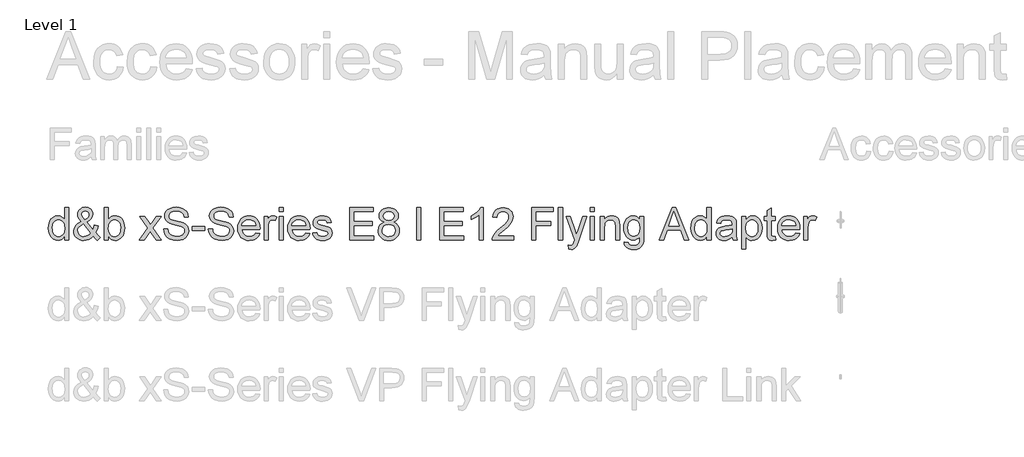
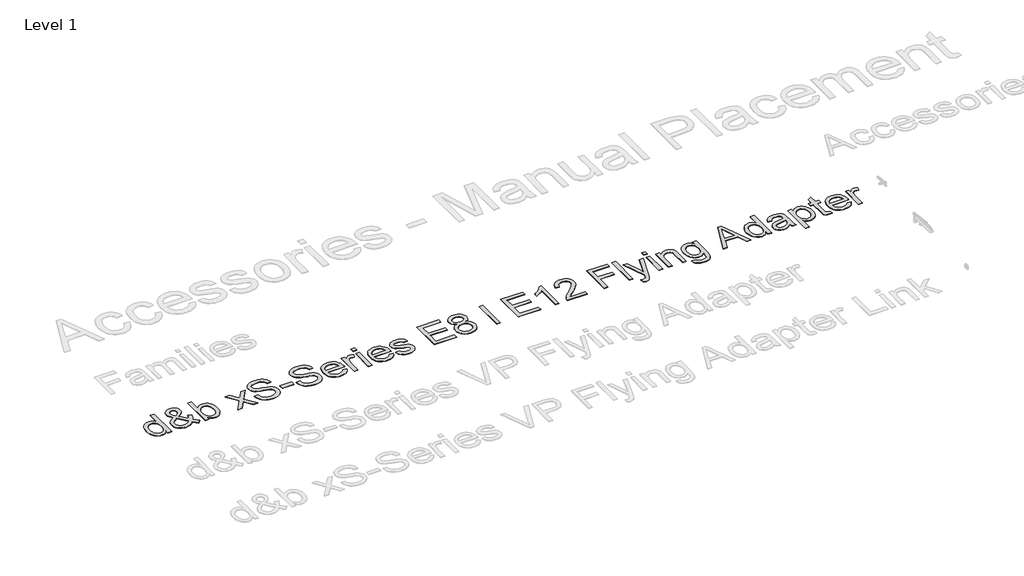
# One storey, part 12 of 55: 1 proxy.
"""IFC4 building model written with IfcOpenShell, lengths in millimetres."""

import ifcopenshell
import ifcopenshell.guid

model = None  # the IFC model being written
_history = None  # IfcOwnerHistory: only IFC2X3 demands one
_inside = {}  # id of a spatial element -> (the spatial element, [elements in it])
_under = {}  # id of a project, library or spatial element -> (it, [spatial elements below it])
_declared = {}  # id of a project -> (the project, [libraries it declares])
_typed = {}  # id of a type object -> (the type object, [elements of that type])
_made_of = {}  # id of a material, layer set ... -> (it, [elements and type objects made of it])


def new_model(schema):
    """Start an empty IFC model of exactly this schema.

    Asked for "IFC4X3", IfcOpenShell would pick the latest addendum, in which some entities
    have other attributes; the version numbers below select the first issue.
    IFC2X3 requires an IfcOwnerHistory on every rooted entity: one is made here for all.
    """
    global model, _history
    if schema == "IFC4X3":
        model = ifcopenshell.file(schema_version=(4, 3, 0, 0))
    else:
        model = ifcopenshell.file(schema=schema)
    _inside.clear()
    _under.clear()
    _declared.clear()
    _typed.clear()
    _made_of.clear()
    _history = None
    if model.schema == "IFC2X3":
        org = make("IfcOrganization", Name="unknown")
        user = make(
            "IfcPersonAndOrganization",
            ThePerson=make("IfcPerson", FamilyName="unknown"),
            TheOrganization=org,
        )
        app = make(
            "IfcApplication",
            ApplicationDeveloper=org,
            Version="unknown",
            ApplicationFullName="unknown",
            ApplicationIdentifier="unknown",
        )
        _history = make(
            "IfcOwnerHistory",
            OwningUser=user,
            OwningApplication=app,
            ChangeAction="ADDED",
            CreationDate=0,
        )
    return model


def make(cls, **values):
    """One entity of the class cls with the attributes given. An attribute that is None is left unset."""
    return model.create_entity(
        cls, **{name: value for name, value in values.items() if value is not None}
    )


def rooted(cls, **values):
    """An entity with a GlobalId (a new one), such as an element, a storey or a relation."""
    return make(cls, GlobalId=ifcopenshell.guid.new(), OwnerHistory=_history, **values)


def si_unit(unit_type, name, prefix=None):
    """IfcSIUnit, for example si_unit("LENGTHUNIT", "METRE", prefix="MILLI")."""
    return make("IfcSIUnit", UnitType=unit_type, Prefix=prefix, Name=name)


def assignment(units):
    """IfcUnitAssignment: the units of a project."""
    return None if units is None else make("IfcUnitAssignment", Units=units)


def point(xyz):
    """IfcCartesianPoint."""
    return None if xyz is None else make("IfcCartesianPoint", Coordinates=xyz)


def direction(xyz):
    """IfcDirection."""
    return None if xyz is None else make("IfcDirection", DirectionRatios=xyz)


def frame(location, z_axis=None, x_axis=None):
    """IfcAxis2Placement3D, a coordinate frame: its origin and axes. An axis left out is left unset."""
    return make(
        "IfcAxis2Placement3D",
        Location=point(location),
        Axis=direction(z_axis),
        RefDirection=direction(x_axis),
    )


def origin():
    """The frame at (0, 0, 0) with its axes left unset."""
    return frame((0.0, 0.0, 0.0))


def origin_with_axes():
    """The frame at (0, 0, 0) with the z axis (0, 0, 1) and the x axis (1, 0, 0) written out."""
    return frame((0.0, 0.0, 0.0), z_axis=(0.0, 0.0, 1.0), x_axis=(1.0, 0.0, 0.0))


def place(relative_to, where):
    """IfcLocalPlacement: puts the frame where relative to a parent placement (None: the world)."""
    return make(
        "IfcLocalPlacement", PlacementRelTo=relative_to, RelativePlacement=where
    )


def context(
    kind, dimensions, precision=None, world=None, true_north=None, identifier=None
):
    """IfcGeometricRepresentationContext, for example the 3D "Model" context."""
    return make(
        "IfcGeometricRepresentationContext",
        ContextIdentifier=identifier,
        ContextType=kind,
        CoordinateSpaceDimension=dimensions,
        Precision=precision,
        WorldCoordinateSystem=world,
        TrueNorth=true_north,
    )


def project(units=None, contexts=None):
    """IfcProject with its units and contexts."""
    return rooted(
        "IfcProject",
        Name="project",
        RepresentationContexts=contexts,
        UnitsInContext=assignment(units),
    )


def spatial(cls, under=None, at=None, **own):
    """A site, building, storey or space (cls), placed at a placement, below another one or the project."""
    s = rooted(cls, ObjectPlacement=at, **own)
    if under is not None:
        _under.setdefault(under.id(), (under, []))[1].append(s)
    return s


def polyline(points):
    """IfcPolyline through the points."""
    return make("IfcPolyline", Points=[point(p) for p in points])


def outline(outer, holes=None, kind="AREA"):
    """IfcArbitraryClosedProfileDef: a profile drawn as a closed curve; with holes, ...WithVoids."""
    if holes is None:
        return make("IfcArbitraryClosedProfileDef", ProfileType=kind, OuterCurve=outer)
    return make(
        "IfcArbitraryProfileDefWithVoids",
        ProfileType=kind,
        OuterCurve=outer,
        InnerCurves=holes,
    )


def extrude(swept, where, along, depth):
    """IfcExtrudedAreaSolid: the profile swept, set in the frame where, extruded along a direction by depth."""
    return make(
        "IfcExtrudedAreaSolid",
        SweptArea=swept,
        Position=where,
        ExtrudedDirection=direction(along),
        Depth=depth,
    )


def shape(context_of_items, identifier, shape_type, items):
    """IfcShapeRepresentation: the items that make up one representation, for example the "Body"."""
    return make(
        "IfcShapeRepresentation",
        ContextOfItems=context_of_items,
        RepresentationIdentifier=identifier,
        RepresentationType=shape_type,
        Items=items,
    )


def made_of(thing, what):
    """Note that an element or type object is made of a material, layer set ...; save() writes the relation."""
    if what is not None:
        _made_of.setdefault(what.id(), (what, []))[1].append(thing)
    return thing


def element(
    cls,
    number,
    at=None,
    inside=None,
    cuts=None,
    type_object=None,
    material=None,
    context=None,
    identifier="Body",
    shape_type=None,
    held_by="IfcProductDefinitionShape",
    body=None,
    shapes=None,
    **own,
):
    """One element of the class cls, such as IfcWall. Its Tag is "e" and its number.

    at: its placement. inside: the storey or other place that contains it. cuts: it is an
    opening in that element (IfcRelVoidsElement). A single representation is given by context,
    identifier, shape_type and body (its items); several are given by shapes. held_by: the class
    of the entity that holds the representations. save() writes the other relations.
    """
    e = rooted(cls, Tag="e%d" % number, ObjectPlacement=at, **own)
    if body is not None:
        shapes = [shape(context, identifier, shape_type, body)]
    if shapes is not None:
        e.Representation = make(held_by, Representations=shapes)
    if inside is not None:
        _inside.setdefault(inside.id(), (inside, []))[1].append(e)
    if cuts is not None:
        rooted(
            "IfcRelVoidsElement", RelatingBuildingElement=cuts, RelatedOpeningElement=e
        )
    if type_object is not None:
        _typed.setdefault(type_object.id(), (type_object, []))[1].append(e)
    return made_of(e, material)


def aggregate(whole, parts):
    """IfcRelAggregates: a whole, such as a stair, and the parts it consists of."""
    return rooted("IfcRelAggregates", RelatingObject=whole, RelatedObjects=parts)


def save(model, path):
    """Write the relations noted so far, then the file.

    IfcRelAggregates (storeys below a building ...), IfcRelContainedInSpatialStructure (elements
    in a storey), IfcRelDefinesByType, IfcRelAssociatesMaterial and IfcRelDeclares: one each for
    every whole, place, type object, material and project.
    """
    for whole, parts in _under.values():
        aggregate(whole, parts)
    for where, things in _inside.values():
        rooted(
            "IfcRelContainedInSpatialStructure",
            RelatedElements=things,
            RelatingStructure=where,
        )
    for kind, things in _typed.values():
        rooted("IfcRelDefinesByType", RelatedObjects=things, RelatingType=kind)
    for what, things in _made_of.values():
        rooted("IfcRelAssociatesMaterial", RelatedObjects=things, RelatingMaterial=what)
    for by, libraries in _declared.values():
        rooted("IfcRelDeclares", RelatingContext=by, RelatedDefinitions=libraries)
    model.write(path)


model = new_model("IFC4")

# Units and contexts
model_context = context("Model", 3, world=origin())
ifc_project = project(units=[si_unit("LENGTHUNIT", "METRE", prefix="MILLI")], contexts=[model_context])

# Site, building, storey
site = spatial("IfcSite", under=ifc_project)
building = spatial("IfcBuilding", under=site)
storey = spatial("IfcBuildingStorey", under=building, Name="Level 1", Elevation=0.0)

# Proxy
placement = place(None, origin())
element("IfcBuildingElementProxy", 1, Name="400mm Arial", ObjectType="400mm Arial", at=placement, inside=storey, context=model_context, shape_type="SweptSolid", body=[
    extrude(outline(polyline([(-20879.8211974, -27148.6945164), (-20879.8211974, -27101.3113154), (-20894.8491769, -27124.7883181), (-20913.0532043, -27141.5576057), (-20934.4332796, -27151.6191783), (-20958.9894028, -27154.9730358), (-20991.4611202, -27150.1169935), (-21021.1859854, -27135.5488665), (-21046.3491139, -27112.2864616), (-21065.1356211, -27081.3475858), (-21076.8342686, -27043.9830379), (-21080.7338177, -27001.4436165), (-21077.1408369, -26959.4314926), (-21066.3618945, -26921.4905962), (-21048.4092531, -26889.7791682), (-21023.2951755, -26866.4554497), (-20992.9203855, -26852.1080519), (-20959.1856065, -26847.325586), (-20934.6110892, -26850.7468885), (-20912.8815261, -26861.0107962), (-20894.4629008, -26876.7438829), (-20879.8211974, -26896.5727224), (-20879.8211974, -26746.8692758), (-20829.5930424, -26746.8692758), (-20829.5930424, -27148.6945164), (-20879.8211974, -27148.6945164)]), holes=[polyline([(-21030.5056627, -27001.2474128), (-21029.089317, -27025.6042665), (-21024.8402799, -27046.6808392), (-21017.7585515, -27064.4771307), (-21007.8441318, -27078.9931411), (-20983.1469871, -27098.3069458), (-20969.2717046, -27103.135397), (-20954.3786151, -27104.7448807), (-20939.415015, -27103.2089734), (-20925.6225058, -27098.6012514), (-20901.5507606, -27080.1703635), (-20892.0440767, -27066.2613584), (-20885.2535882, -27049.1088603), (-20879.8211974, -27005.0733855), (-20885.3516901, -26956.9298951), (-20892.2648059, -26938.3947739), (-20901.9431681, -26923.5507354), (-20913.6448812, -26912.1770504), (-20926.6280499, -26904.0529896), (-20940.8926743, -26899.1785532), (-20956.4387543, -26897.5537411), (-20971.6261493, -26899.1141738), (-20985.5014319, -26903.7954722), (-20998.064602, -26911.5976362), (-21009.3156597, -26922.5206658), (-21018.586286, -26936.8036843), (-21025.2081619, -26954.6858149), (-21030.5056627, -27001.2474128)])]), origin_with_axes(), (0.0, 0.0, 1.0), 5.0),
    extrude(outline(polyline([(-20523.809528, -27099.0549725), (-20549.3405384, -27123.5191252), (-20577.0788409, -27140.99352), (-20607.0734862, -27151.4781569), (-20639.3735254, -27154.9730358), (-20668.6814577, -27152.3855991), (-20694.8010793, -27144.623289), (-20717.7323904, -27131.6861055), (-20737.4753908, -27113.5740486), (-20750.308341, -27096.2038871), (-20759.4747341, -27077.8404442), (-20764.9745699, -27058.4837198), (-20766.8078485, -27038.1337141), (-20760.9094739, -27002.9396699), (-20743.2143499, -26971.3263438), (-20713.796053, -26943.3182613), (-20672.7281596, -26918.9399477), (-20694.6416638, -26890.5885086), (-20707.7995765, -26868.1231814), (-20714.3846642, -26848.9442668), (-20716.5796934, -26830.4520651), (-20714.8506481, -26812.8979626), (-20709.6635119, -26796.5333452), (-20701.018285, -26781.3582129), (-20688.9149674, -26767.3725657), (-20674.1935562, -26755.6555241), (-20657.6940487, -26747.2862088), (-20639.4164449, -26742.2646195), (-20619.3607448, -26740.5907564), (-20600.212487, -26742.1910431), (-20582.8913764, -26746.9919032), (-20567.397413, -26754.9933366), (-20553.7305969, -26766.1953433), (-20542.5715097, -26779.6414302), (-20534.6007332, -26794.3751041), (-20529.8182672, -26810.396365), (-20528.2241119, -26827.7052129), (-20532.9452642, -26855.68877), (-20547.108721, -26881.563137), (-20570.7144823, -26905.3283139), (-20603.7625482, -26926.9843007), (-20531.069066, -27017.5323224), (-20518.6837055, -26991.6579554), (-20509.3885538, -26961.9085647), (-20459.1603987, -26972.7978718), (-20474.6114425, -27019.3226815), (-20494.6732739, -27055.4977443), (-20466.1256311, -27088.8033276), (-20434.0463211, -27116.3209009), (-20471.7174374, -27154.9730358), (-20497.3465498, -27131.52669), (-20523.809528, -27099.0549725)]), holes=[polyline([(-20557.4584678, -27062.8553842), (-20647.1235727, -26950.9211558), (-20681.3733865, -26972.7733463), (-20702.305872, -26993.0068561), (-20713.0112381, -27012.3329235), (-20716.5796934, -27031.4627873), (-20711.6991256, -27055.1543878), (-20697.0574222, -27079.7289051), (-20686.2784798, -27090.6733944), (-20673.4639236, -27098.4908868), (-20658.6137537, -27103.1813823), (-20641.7279702, -27104.7448807), (-20619.0051256, -27101.8263502), (-20595.5710425, -27093.0707588), (-20574.1480476, -27079.6798541), (-20557.4584678, -27062.8553842)]), polyline([(-20629.1709314, -26895.2973981), (-20602.9041569, -26878.6323438), (-20587.8700461, -26864.1500559), (-20580.8067117, -26850.0601755), (-20578.452267, -26834.5723435), (-20581.5547385, -26817.0243723), (-20590.862153, -26803.0325938), (-20604.829406, -26793.8723321), (-20621.9113933, -26790.8189115), (-20639.3612626, -26793.8478066), (-20653.6473468, -26802.9344919), (-20663.1754905, -26816.3867102), (-20666.3515384, -26832.5122043), (-20662.0350563, -26850.9063041), (-20648.9875082, -26871.360543), (-20629.1709314, -26895.2973981)])]), origin_with_axes(), (0.0, 0.0, 1.0), 5.0),
    extrude(outline(polyline([(-20333.590011, -27148.6945164), (-20383.8181661, -27148.6945164), (-20383.8181661, -26746.8692758), (-20333.590011, -26746.8692758), (-20333.590011, -26895.8860093), (-20317.0721094, -26874.6408241), (-20298.4204923, -26859.4656918), (-20277.6351595, -26850.3606124), (-20254.7161112, -26847.325586), (-20228.8417442, -26850.0601755), (-20204.3898543, -26858.263944), (-20182.758393, -26871.4218567), (-20165.3453119, -26889.0188788), (-20151.6968898, -26910.883332), (-20141.3594058, -26936.8435381), (-20134.8478945, -26965.8203766), (-20132.6773907, -26996.734727), (-20134.9245365, -27032.4070178), (-20141.6659741, -27063.7873519), (-20152.9017034, -27090.8757295), (-20168.6317244, -27113.6721505), (-20187.5132678, -27131.7412878), (-20208.2035643, -27144.6478145), (-20230.702614, -27152.3917305), (-20255.0104168, -27154.9730358), (-20278.6836232, -27151.6437038), (-20299.671291, -27141.6557076), (-20317.9734203, -27125.0090473), (-20333.590011, -27101.7037229), (-20333.590011, -27148.6945164)]), holes=[polyline([(-20333.590011, -26999.0891717), (-20330.1564457, -27040.9786682), (-20319.8557498, -27069.3301073), (-20307.6849872, -27084.8240707), (-20293.5399244, -27095.8911874), (-20277.4205617, -27102.5314574), (-20259.3268989, -27104.7448807), (-20244.3050508, -27103.1139372), (-20230.3377977, -27098.2211067), (-20217.4251396, -27090.0663891), (-20205.5670767, -27078.6497845), (-20195.6526569, -27064.0019498), (-20188.5709285, -27046.1535416), (-20184.3218914, -27025.1045601), (-20182.9055458, -27000.8550053), (-20188.3379366, -26954.8942814), (-20195.1284251, -26937.1010555), (-20204.6351089, -26922.7659205), (-20216.0670419, -26911.735592), (-20228.6332778, -26903.8567859), (-20242.3338164, -26899.1295023), (-20257.1686579, -26897.5537411), (-20272.190506, -26899.1846846), (-20286.1577591, -26904.0775151), (-20299.0704171, -26912.2322327), (-20310.9284801, -26923.6488372), (-20320.8428999, -26938.1495192), (-20327.9246283, -26955.556469), (-20332.1736653, -26975.8696865), (-20333.590011, -26999.0891717)])]), origin_with_axes(), (0.0, 0.0, 1.0), 5.0),
    extrude(outline(polyline([(-19950.6003285, -27148.6945164), (-19843.2768878, -27000.2663941), (-19944.3218092, -26853.6041054), (-19884.0872638, -26853.6041054), (-19835.3306367, -26924.3355503), (-19812.4729021, -26957.5920827), (-19792.6563253, -26930.3197641), (-19737.1306695, -26853.6041054), (-19676.6999204, -26853.6041054), (-19782.8461387, -27000.364496), (-19680.623995, -27148.6945164), (-19740.9566422, -27148.6945164), (-19802.5646137, -27059.4218189), (-19813.7482263, -27043.0388074), (-19890.1695795, -27148.6945164), (-19950.6003285, -27148.6945164)])), origin_with_axes(), (0.0, 0.0, 1.0), 5.0),
    extrude(outline(polyline([(-19649.2313981, -27010.56709), (-19599.003243, -27010.56709), (-19593.2397584, -27038.4402825), (-19582.8164352, -27060.844296), (-19566.556051, -27078.6252591), (-19543.2813835, -27092.6293004), (-19514.8318425, -27101.7159856), (-19483.0468381, -27104.7448807), (-19455.063281, -27102.4517496), (-19430.5623402, -27095.5723563), (-19410.7089752, -27084.6830493), (-19396.6681457, -27070.3601769), (-19388.3172244, -27053.9158517), (-19385.533584, -27036.6621862), (-19387.6182486, -27019.849979), (-19393.8722425, -27005.3186402), (-19406.5764341, -26992.9210169), (-19428.0116917, -26982.5099565), (-19501.1466323, -26963.3310418), (-19549.1552327, -26950.639113), (-19579.8733793, -26938.5603208), (-19604.8770922, -26921.6622745), (-19622.5967416, -26901.1835101), (-19633.1549549, -26877.565486), (-19636.6743593, -26851.2496606), (-19632.3210891, -26821.8313637), (-19619.2612782, -26794.3996296), (-19597.8382834, -26771.1494875), (-19568.395461, -26754.2759667), (-19533.054264, -26744.012059), (-19493.9361452, -26740.5907564), (-19451.5561394, -26744.1714745), (-19414.4736342, -26754.9136288), (-19384.013005, -26772.59649), (-19361.4986269, -26796.999329), (-19347.249331, -26826.6015669), (-19341.5839483, -26859.8826247), (-19391.8121033, -26859.8826247), (-19401.0336787, -26829.9125049), (-19409.3968627, -26818.0544419), (-19420.2616443, -26808.2810436), (-19450.3053406, -26795.1844445), (-19491.9741079, -26790.8189115), (-19534.6238939, -26795.1353936), (-19550.9271976, -26800.5309962), (-19563.8827752, -26808.0848398), (-19580.805347, -26827.1411272), (-19586.4462043, -26849.7781326), (-19582.4485532, -26869.0796746), (-19570.4556002, -26884.6042948), (-19542.1041611, -26898.4857088), (-19488.4424407, -26912.6614283), (-19433.0639377, -26926.1259093), (-19399.5621507, -26937.8736077), (-19370.9286687, -26956.0960292), (-19350.9526764, -26978.5858819), (-19339.2172408, -27005.097911), (-19335.3054289, -27035.3868619), (-19339.805852, -27066.3502632), (-19353.3071212, -27095.4742545), (-19375.2574136, -27120.5392811), (-19405.1049061, -27139.3257883), (-19440.9979261, -27151.0612239), (-19481.0848008, -27154.9730358), (-19530.2951491, -27150.7546556), (-19570.7989567, -27138.099515), (-19603.0622077, -27116.958563), (-19627.5508858, -27087.2827487), (-19643.2717098, -27051.1322113), (-19649.2313981, -27010.56709)])), origin_with_axes(), (0.0, 0.0, 1.0), 5.0),
    extrude(outline(polyline([(-19291.3557932, -27029.4026481), (-19291.3557932, -26979.174493), (-19134.3928086, -26979.174493), (-19134.3928086, -27029.4026481), (-19291.3557932, -27029.4026481)])), origin_with_axes(), (0.0, 0.0, 1.0), 5.0),
    extrude(outline(polyline([(-19090.4431729, -27010.56709), (-19040.2150178, -27010.56709), (-19034.4515332, -27038.4402825), (-19024.02821, -27060.844296), (-19007.7678258, -27078.6252591), (-18984.4931583, -27092.6293004), (-18956.0436173, -27101.7159856), (-18924.2586129, -27104.7448807), (-18896.2750558, -27102.4517496), (-18871.774115, -27095.5723563), (-18851.9207499, -27084.6830493), (-18837.8799205, -27070.3601769), (-18829.5289992, -27053.9158517), (-18826.7453587, -27036.6621862), (-18828.8300234, -27019.849979), (-18835.0840173, -27005.3186402), (-18847.7882089, -26992.9210169), (-18869.2234665, -26982.5099565), (-18942.3584071, -26963.3310418), (-18990.3670075, -26950.639113), (-19021.0851541, -26938.5603208), (-19046.088867, -26921.6622745), (-19063.8085164, -26901.1835101), (-19074.3667297, -26877.565486), (-19077.8861341, -26851.2496606), (-19073.5328638, -26821.8313637), (-19060.473053, -26794.3996296), (-19039.0500582, -26771.1494875), (-19009.6072358, -26754.2759667), (-18974.2660388, -26744.012059), (-18935.14792, -26740.5907564), (-18892.7679141, -26744.1714745), (-18855.685409, -26754.9136288), (-18825.2247798, -26772.59649), (-18802.7104017, -26796.999329), (-18788.4611058, -26826.6015669), (-18782.7957231, -26859.8826247), (-18833.0238781, -26859.8826247), (-18842.2454535, -26829.9125049), (-18850.6086375, -26818.0544419), (-18861.4734191, -26808.2810436), (-18891.5171154, -26795.1844445), (-18933.1858827, -26790.8189115), (-18975.8356687, -26795.1353936), (-18992.1389724, -26800.5309962), (-19005.09455, -26808.0848398), (-19022.0171218, -26827.1411272), (-19027.657979, -26849.7781326), (-19023.660328, -26869.0796746), (-19011.667375, -26884.6042948), (-18983.3159359, -26898.4857088), (-18929.6542155, -26912.6614283), (-18874.2757125, -26926.1259093), (-18840.7739255, -26937.8736077), (-18812.1404435, -26956.0960292), (-18792.1644512, -26978.5858819), (-18780.4290156, -27005.097911), (-18776.5172037, -27035.3868619), (-18781.0176267, -27066.3502632), (-18794.518896, -27095.4742545), (-18816.4691883, -27120.5392811), (-18846.3166809, -27139.3257883), (-18882.2097009, -27151.0612239), (-18922.2965756, -27154.9730358), (-18971.5069238, -27150.7546556), (-19012.0107315, -27138.099515), (-19044.2739825, -27116.958563), (-19068.7626606, -27087.2827487), (-19084.4834846, -27051.1322113), (-19090.4431729, -27010.56709)])), origin_with_axes(), (0.0, 0.0, 1.0), 5.0),
    extrude(outline(polyline([(-18500.850962, -27060.795245), (-18451.6038255, -27067.0737644), (-18459.1546035, -27086.7983707), (-18469.3480004, -27104.180795), (-18482.1840164, -27119.2210372), (-18497.6626513, -27131.9190974), (-18515.6244897, -27142.0051955), (-18535.9101161, -27149.2095512), (-18583.4527326, -27154.9730358), (-18614.618469, -27152.4867667), (-18642.3874282, -27145.0279592), (-18666.7596104, -27132.5966135), (-18687.7350155, -27115.1927294), (-18704.602405, -27093.300685), (-18716.6505403, -27067.4048582), (-18723.8794215, -27037.5052491), (-18726.2890486, -27003.6018575), (-18723.8548961, -26968.5488348), (-18716.5524385, -26937.6528785), (-18704.3816758, -26910.9139888), (-18687.342608, -26888.3321657), (-18666.4223852, -26870.3917871), (-18642.6081574, -26857.5772309), (-18615.8999246, -26849.8884972), (-18586.2976867, -26847.325586), (-18557.6488763, -26849.8823658), (-18531.7407868, -26857.5527054), (-18508.5734182, -26870.3366048), (-18488.1467704, -26888.2340638), (-18471.472519, -26910.766836), (-18459.5623394, -26937.4566748), (-18452.4162316, -26968.3035801), (-18450.0341957, -27003.3075519), (-18450.3285013, -27016.8456094), (-18676.0608935, -27016.8456094), (-18673.1515601, -27036.8890467), (-18667.3666157, -27054.4431493), (-18658.7060604, -27069.507917), (-18647.1698942, -27082.0833498), (-18633.3957791, -27091.9977696), (-18618.0213774, -27099.079498), (-18582.4717139, -27104.7448807), (-18555.7389556, -27102.1206558), (-18533.2245775, -27094.2479811), (-18514.9285796, -27080.6363473), (-18500.850962, -27060.795245)]), holes=[polyline([(-18676.0608935, -26966.6174543), (-18500.2623508, -26966.6174543), (-18507.0559049, -26940.0808997), (-18520.3732332, -26921.0981887), (-18534.0707061, -26910.7974929), (-18549.65664, -26903.439853), (-18567.1310348, -26899.025269), (-18586.4938904, -26897.5537411), (-18620.3512967, -26902.2503679), (-18648.3471166, -26916.3402483), (-18667.8080741, -26938.3028034), (-18676.0608935, -26966.6174543)])]), origin_with_axes(), (0.0, 0.0, 1.0), 5.0),
    extrude(outline(polyline([(-18399.8060406, -27148.6945164), (-18399.8060406, -26853.6041054), (-18355.8564049, -26853.6041054), (-18355.8564049, -26897.2594355), (-18339.6205462, -26871.9491542), (-18324.6600117, -26857.0376707), (-18309.6504263, -26849.7536071), (-18293.2674148, -26847.325586), (-18268.2514391, -26851.2006097), (-18242.843056, -26862.8256807), (-18259.618475, -26907.8544369), (-18277.2768108, -26900.128915), (-18294.9351465, -26897.5537411), (-18309.9324692, -26900.0308132), (-18323.3356365, -26907.4620295), (-18334.1636299, -26919.2833042), (-18341.4354307, -26934.9305518), (-18347.5422718, -26962.9876853), (-18349.5778855, -26993.5954673), (-18349.5778855, -27148.6945164), (-18399.8060406, -27148.6945164)])), origin_with_axes(), (0.0, 0.0, 1.0), 5.0),
    extrude(outline(polyline([(-18211.4504591, -26797.0974309), (-18211.4504591, -26746.8692758), (-18161.222304, -26746.8692758), (-18161.222304, -26797.0974309), (-18211.4504591, -26797.0974309)])), origin_with_axes(), (0.0, 0.0, 1.0), 5.0),
    extrude(outline(polyline([(-18211.4504591, -27148.6945164), (-18211.4504591, -26853.6041054), (-18161.222304, -26853.6041054), (-18161.222304, -27148.6945164), (-18211.4504591, -27148.6945164)])), origin_with_axes(), (0.0, 0.0, 1.0), 5.0),
    extrude(outline(polyline([(-17879.2775429, -27060.795245), (-17830.0304065, -27067.0737644), (-17837.5811844, -27086.7983707), (-17847.7745814, -27104.180795), (-17860.6105973, -27119.2210372), (-17876.0892323, -27131.9190974), (-17894.0510707, -27142.0051955), (-17914.336697, -27149.2095512), (-17961.8793136, -27154.9730358), (-17993.0450499, -27152.4867667), (-18020.8140092, -27145.0279592), (-18045.1861914, -27132.5966135), (-18066.1615965, -27115.1927294), (-18083.0289859, -27093.300685), (-18095.0771213, -27067.4048582), (-18102.3060025, -27037.5052491), (-18104.7156295, -27003.6018575), (-18102.281477, -26968.5488348), (-18094.9790194, -26937.6528785), (-18082.8082567, -26910.9139888), (-18065.769189, -26888.3321657), (-18044.8489662, -26870.3917871), (-18021.0347384, -26857.5772309), (-17994.3265055, -26849.8884972), (-17964.7242676, -26847.325586), (-17936.0754573, -26849.8823658), (-17910.1673678, -26857.5527054), (-17886.9999991, -26870.3366048), (-17866.5733513, -26888.2340638), (-17849.8990999, -26910.766836), (-17837.9889203, -26937.4566748), (-17830.8428126, -26968.3035801), (-17828.4607766, -27003.3075519), (-17828.7550822, -27016.8456094), (-18054.4874745, -27016.8456094), (-18051.578141, -27036.8890467), (-18045.7931967, -27054.4431493), (-18037.1326413, -27069.507917), (-18025.5964751, -27082.0833498), (-18011.8223601, -27091.9977696), (-17996.4479584, -27099.079498), (-17960.8982949, -27104.7448807), (-17934.1655366, -27102.1206558), (-17911.6511585, -27094.2479811), (-17893.3551606, -27080.6363473), (-17879.2775429, -27060.795245)]), holes=[polyline([(-18054.4874745, -26966.6174543), (-17878.6889317, -26966.6174543), (-17885.4824859, -26940.0808997), (-17898.7998141, -26921.0981887), (-17912.4972871, -26910.7974929), (-17928.0832209, -26903.439853), (-17945.5576157, -26899.025269), (-17964.9204714, -26897.5537411), (-17998.7778777, -26902.2503679), (-18026.7736975, -26916.3402483), (-18046.234655, -26938.3028034), (-18054.4874745, -26966.6174543)])]), origin_with_axes(), (0.0, 0.0, 1.0), 5.0),
    extrude(outline(polyline([(-17797.0681797, -27060.795245), (-17746.8400246, -27054.5167257), (-17738.918299, -27076.0010342), (-17723.5898825, -27091.7954345), (-17700.7566734, -27101.5075192), (-17670.3205696, -27104.7448807), (-17640.2523479, -27101.7772993), (-17619.1113959, -27092.874555), (-17606.6034081, -27079.9741597), (-17602.4340788, -27065.0136253), (-17606.6279335, -27052.2113318), (-17619.2094978, -27042.4501962), (-17670.9091808, -27028.1273239), (-17746.545719, -27003.5528066), (-17765.6878455, -26991.2042343), (-17779.5569967, -26974.858011), (-17787.9814944, -26955.556469), (-17790.7896603, -26934.3419406), (-17788.5333174, -26914.880983), (-17781.7642887, -26896.9160789), (-17771.0957109, -26881.1584668), (-17757.1407205, -26868.3193852), (-17725.2085633, -26853.4569526), (-17704.3251287, -26848.8584276), (-17681.9946916, -26847.325586), (-17649.302245, -26849.7903953), (-17620.8772295, -26857.1848234), (-17598.0194949, -26868.785369), (-17582.0288908, -26883.8685308), (-17571.4338893, -26903.5502176), (-17564.7629625, -26928.946338), (-17614.9911176, -26935.2248574), (-17621.3309506, -26919.4181943), (-17633.8757267, -26907.5110804), (-17652.748073, -26900.0430759), (-17678.070617, -26897.5537411), (-17706.9125654, -26899.9327113), (-17726.140531, -26907.069622), (-17736.9562617, -26917.3703179), (-17740.5615053, -26929.2406436), (-17734.5772915, -26943.8578215), (-17715.8398352, -26954.9433323), (-17672.5769125, -26965.6364356), (-17598.8533607, -26989.2789852), (-17579.3801404, -27000.5852252), (-17564.6158097, -27016.0607944), (-17555.3083952, -27035.7547439), (-17552.2059237, -27059.7161245), (-17555.8479555, -27084.4868455), (-17566.7740507, -27107.7860386), (-17584.5672766, -27127.7865564), (-17608.8107, -27142.6612517), (-17638.0941069, -27151.8950898), (-17671.0072827, -27154.9730358), (-17698.040478, -27153.4892451), (-17721.6523707, -27149.037873), (-17741.8429609, -27141.6189194), (-17758.6122485, -27131.2323844), (-17772.3097214, -27117.9273189), (-17783.2848676, -27101.7527738), (-17791.5376871, -27082.7087492), (-17797.0681797, -27060.795245)])), origin_with_axes(), (0.0, 0.0, 1.0), 5.0),
    extrude(outline(polyline([(-17332.4577453, -27148.6945164), (-17332.4577453, -26746.8692758), (-17043.6458536, -26746.8692758), (-17043.6458536, -26797.0974309), (-17282.2295902, -26797.0974309), (-17282.2295902, -26916.3892992), (-17056.2028924, -26916.3892992), (-17056.2028924, -26966.6174543), (-17282.2295902, -26966.6174543), (-17282.2295902, -27098.4663614), (-17037.3673342, -27098.4663614), (-17037.3673342, -27148.6945164), (-17332.4577453, -27148.6945164)])), origin_with_axes(), (0.0, 0.0, 1.0), 5.0),
    extrude(outline(polyline([(-16907.6766682, -26927.3767081), (-16934.568842, -26914.1329563), (-16953.4411884, -26896.1803149), (-16964.5880128, -26873.886666), (-16968.303621, -26847.6198916), (-16966.28027, -26827.1349958), (-16960.2102171, -26808.35462), (-16950.0934622, -26791.278764), (-16935.9300054, -26775.907428), (-16918.4004283, -26763.2032364), (-16898.1853127, -26754.1288139), (-16875.2846585, -26748.6841603), (-16849.6984657, -26746.8692758), (-16823.9896456, -26748.7270799), (-16800.9173132, -26754.3004921), (-16780.4814683, -26763.5895125), (-16762.6821111, -26776.594141), (-16748.2611369, -26792.265914), (-16737.9604411, -26809.5563678), (-16731.7800235, -26828.4655024), (-16729.7198844, -26848.9933177), (-16733.3864416, -26874.4139636), (-16744.3861132, -26896.3274677), (-16762.8415267, -26914.1697445), (-16788.8753092, -26927.3767081), (-16757.9609589, -26943.3059985), (-16735.4588435, -26966.7646071), (-16721.7368451, -26996.6243624), (-16717.1628456, -27031.7570929), (-16719.4314512, -27056.8098568), (-16726.2372682, -27079.777956), (-16737.5802963, -27100.6613906), (-16753.4605358, -27119.4601605), (-16773.0441207, -27134.9970435), (-16795.4971851, -27146.094817), (-16820.8197291, -27152.7534811), (-16849.0117527, -27154.9730358), (-16877.2037762, -27152.7442841), (-16902.5263202, -27146.0580288), (-16924.9793847, -27134.91427), (-16944.5629696, -27119.3130077), (-16960.443209, -27100.3824134), (-16971.7862372, -27079.2506585), (-16978.5920541, -27055.9177429), (-16980.8606597, -27030.3836668), (-16976.1027193, -26993.8897729), (-16961.8288979, -26963.8706021), (-16938.7749595, -26941.3562239), (-16907.6766682, -26927.3767081)]), holes=[polyline([(-16930.6325047, -27028.6178332), (-16928.5355773, -27047.8335361), (-16922.2447952, -27066.4361023), (-16910.6319869, -27082.6596983), (-16892.5689809, -27094.7384905), (-16870.9375196, -27102.2432832), (-16848.6193452, -27104.7448807), (-16814.4308451, -27099.4841682), (-16800.5371684, -27092.9082775), (-16788.7772073, -27083.7020306), (-16772.7375523, -27059.8019637), (-16767.3910007, -27030.187463), (-16772.9092306, -27000.0701904), (-16789.4639204, -26975.6428259), (-16801.5427126, -26966.2005214), (-16815.7061694, -26959.4560181), (-16850.2870769, -26954.0604155), (-16883.9973304, -26959.3824417), (-16897.7346573, -26966.0349745), (-16909.3934508, -26975.3485203), (-16925.3227412, -26999.3099009), (-16930.6325047, -27028.6178332)]), polyline([(-16918.0754659, -26849.0914196), (-16913.6240938, -26871.0171865), (-16900.2699773, -26888.5283694), (-16878.4055241, -26900.0062877), (-16848.4231415, -26903.8322604), (-16819.1397347, -26900.0308132), (-16797.6063752, -26888.6264713), (-16784.3626234, -26871.7038995), (-16779.9480394, -26851.3477625), (-16784.5097762, -26830.2190732), (-16798.1949864, -26812.7446784), (-16820.0226515, -26801.0092428), (-16849.0117527, -26797.0974309), (-16878.1847949, -26800.9234037), (-16899.9756717, -26812.4013219), (-16913.5505174, -26829.2257918), (-16918.0754659, -26849.0914196)])]), origin_with_axes(), (0.0, 0.0, 1.0), 5.0),
    extrude(outline(polyline([(-16503.6931865, -27148.6945164), (-16503.6931865, -26746.8692758), (-16453.4650315, -26746.8692758), (-16453.4650315, -27148.6945164), (-16503.6931865, -27148.6945164)])), origin_with_axes(), (0.0, 0.0, 1.0), 5.0),
    extrude(outline(polyline([(-16214.8812949, -27148.6945164), (-16214.8812949, -26746.8692758), (-15926.0694032, -26746.8692758), (-15926.0694032, -26797.0974309), (-16164.6531398, -26797.0974309), (-16164.6531398, -26916.3892992), (-15938.6264419, -26916.3892992), (-15938.6264419, -26966.6174543), (-16164.6531398, -26966.6174543), (-16164.6531398, -27098.4663614), (-15919.7908838, -27098.4663614), (-15919.7908838, -27148.6945164), (-16214.8812949, -27148.6945164)])), origin_with_axes(), (0.0, 0.0, 1.0), 5.0),
    extrude(outline(polyline([(-15674.9286278, -27148.6945164), (-15725.1567829, -27148.6945164), (-15725.1567829, -26835.5533621), (-15746.1260566, -26852.5127221), (-15772.7361876, -26869.4475566), (-15825.613093, -26894.8068888), (-15825.613093, -26847.325586), (-15786.1638804, -26825.8658029), (-15751.9876431, -26800.3347925), (-15725.0464183, -26773.1851012), (-15707.3022434, -26746.8692758), (-15674.9286278, -26746.8692758), (-15674.9286278, -27148.6945164)])), origin_with_axes(), (0.0, 0.0, 1.0), 5.0),
    extrude(outline(polyline([(-15298.2174647, -27098.4663614), (-15298.2174647, -27148.6945164), (-15561.9152789, -27148.6945164), (-15560.8116329, -27131.0116552), (-15556.5196763, -27114.0645579), (-15544.1220531, -27087.0007058), (-15525.9609452, -27060.7461941), (-15499.7064335, -27033.2654091), (-15463.0285986, -27002.522737), (-15408.8395807, -26954.3792466), (-15376.3556005, -26918.8418458), (-15360.1320045, -26889.9998974), (-15354.7241392, -26861.9427639), (-15359.8376989, -26836.7918982), (-15375.1783781, -26815.8839381), (-15398.759614, -26801.7940577), (-15428.5948438, -26797.0974309), (-15459.9261271, -26801.6836931), (-15484.2676524, -26815.4424797), (-15499.9762136, -26837.2946702), (-15505.4086044, -26866.1611441), (-15555.6367595, -26859.8826247), (-15551.3172117, -26833.9530755), (-15543.4598655, -26811.2976759), (-15532.0647207, -26791.9164261), (-15517.1317773, -26775.8093261), (-15499.004392, -26763.1480541), (-15478.0259213, -26754.1042884), (-15454.196365, -26748.678029), (-15427.5157233, -26746.8692758), (-15400.5959583, -26748.8803641), (-15376.6376434, -26754.9136288), (-15355.6407785, -26764.96907), (-15337.6053637, -26779.0466877), (-15323.1200101, -26796.1041495), (-15312.773329, -26815.0991232), (-15306.5653203, -26836.0316087), (-15304.4959841, -26858.9016061), (-15306.7278016, -26882.9243004), (-15313.4232539, -26906.5300617), (-15325.3058423, -26930.5404933), (-15343.0990682, -26955.7771982), (-15371.46277, -26985.9067336), (-15415.0567864, -27024.5956567), (-15472.8387851, -27072.9108254), (-15495.500316, -27098.4663614), (-15298.2174647, -27098.4663614)])), origin_with_axes(), (0.0, 0.0, 1.0), 5.0),
    extrude(outline(polyline([(-15072.1907669, -27148.6945164), (-15072.1907669, -26746.8692758), (-14802.2144334, -26746.8692758), (-14802.2144334, -26797.0974309), (-15021.9626118, -26797.0974309), (-15021.9626118, -26916.3892992), (-14833.6070303, -26916.3892992), (-14833.6070303, -26966.6174543), (-15021.9626118, -26966.6174543), (-15021.9626118, -27148.6945164), (-15072.1907669, -27148.6945164)])), origin_with_axes(), (0.0, 0.0, 1.0), 5.0),
    extrude(outline(polyline([(-14739.4292395, -27148.6945164), (-14739.4292395, -26746.8692758), (-14689.2010845, -26746.8692758), (-14689.2010845, -27148.6945164), (-14739.4292395, -27148.6945164)])), origin_with_axes(), (0.0, 0.0, 1.0), 5.0),
    extrude(outline(polyline([(-14613.8588518, -27261.7078653), (-14620.1373712, -27213.3436457), (-14594.6308862, -27217.7582297), (-14581.2154561, -27216.3725408), (-14570.7921329, -27212.2154743), (-14556.174955, -27196.7644305), (-14542.4406939, -27159.7800272), (-14538.5166192, -27147.6153959), (-14645.2514488, -26853.6041054), (-14592.3745433, -26853.6041054), (-14535.6716651, -27017.5323224), (-14515.9531902, -27083.0643685), (-14496.2347153, -27025.086166), (-14438.0603091, -26853.6041054), (-14385.5758111, -26853.6041054), (-14488.2884642, -27155.7578507), (-14514.9721715, -27221.2898968), (-14528.6328563, -27242.2101196), (-14544.1084256, -27256.7046702), (-14562.0610669, -27265.1659561), (-14583.152968, -27267.9863847), (-14613.8588518, -27261.7078653)])), origin_with_axes(), (0.0, 0.0, 1.0), 5.0),
    extrude(outline(polyline([(-14343.8825183, -26797.0974309), (-14343.8825183, -26746.8692758), (-14293.6543632, -26746.8692758), (-14293.6543632, -26797.0974309), (-14343.8825183, -26797.0974309)])), origin_with_axes(), (0.0, 0.0, 1.0), 5.0),
    extrude(outline(polyline([(-14343.8825183, -27148.6945164), (-14343.8825183, -26853.6041054), (-14293.6543632, -26853.6041054), (-14293.6543632, -27148.6945164), (-14343.8825183, -27148.6945164)])), origin_with_axes(), (0.0, 0.0, 1.0), 5.0),
    extrude(outline(polyline([(-14218.3121306, -27148.6945164), (-14218.3121306, -26853.6041054), (-14168.0839756, -26853.6041054), (-14168.0839756, -26894.8068888), (-14150.6341063, -26874.0338188), (-14129.6770953, -26859.1959117), (-14105.2129426, -26850.2931674), (-14077.2416482, -26847.325586), (-14052.4831899, -26849.7168189), (-14029.8093963, -26856.8905179), (-14010.9002618, -26867.9515032), (-13997.4357807, -26882.0045954), (-13988.3000445, -26899.0130063), (-13982.3771444, -26918.9399477), (-13979.728394, -26967.5003711), (-13979.728394, -27148.6945164), (-14029.9565491, -27148.6945164), (-14029.9565491, -26974.2693998), (-14031.4035516, -26948.2969309), (-14035.7445592, -26929.8292548), (-14043.7521239, -26916.5977657), (-14056.1987981, -26906.333858), (-14072.1526139, -26899.7487703), (-14090.6816038, -26897.5537411), (-14120.0999007, -26902.4833598), (-14145.17719, -26917.272216), (-14155.1989087, -26929.3448768), (-14162.3572792, -26945.8443843), (-14166.6523015, -26966.7707384), (-14168.0839756, -26992.1239393), (-14168.0839756, -27148.6945164), (-14218.3121306, -27148.6945164)])), origin_with_axes(), (0.0, 0.0, 1.0), 5.0),
    extrude(outline(polyline([(-13923.2217196, -27173.808594), (-13872.9935645, -27180.0871133), (-13867.4508091, -27195.7834118), (-13856.7086548, -27206.574617), (-13835.5922283, -27214.9623265), (-13807.9520277, -27217.7582297), (-13778.4724172, -27214.5944445), (-13756.5466503, -27205.103089), (-13741.3408612, -27189.8972999), (-13732.0211839, -27169.5902138), (-13728.5876187, -27111.0234001), (-13745.301724, -27127.5045135), (-13763.9533411, -27139.2767374), (-13784.5424701, -27146.3400717), (-13807.069111, -27148.6945164), (-13834.608144, -27145.9537956), (-13858.8546331, -27137.731633), (-13879.8085785, -27124.0280287), (-13897.4699799, -27104.8429826), (-13911.4832182, -27081.8258324), (-13921.4926742, -27056.6259158), (-13927.4983478, -27029.2432326), (-13929.500239, -26999.6777829), (-13925.9072581, -26959.1249243), (-13915.1283157, -26921.8339527), (-13897.5435563, -26890.2328893), (-13873.5331248, -26866.7497553), (-13843.9186241, -26852.1816283), (-13809.5216576, -26847.325586), (-13786.0323922, -26850.0724382), (-13764.7136306, -26858.3129949), (-13745.5653727, -26872.0472561), (-13728.5876187, -26891.2752217), (-13728.5876187, -26853.6041054), (-13678.3594636, -26853.6041054), (-13678.3594636, -27108.3746498), (-13681.7930289, -27167.1989808), (-13692.0937247, -27205.9369549), (-13709.8378996, -27231.6273809), (-13735.601902, -27251.3090676), (-13768.8216462, -27263.8170555), (-13808.9330464, -27267.9863847), (-13833.5412862, -27266.5179224), (-13855.6663225, -27262.1125355), (-13875.3081554, -27254.7702241), (-13892.4667848, -27244.490988), (-13906.3267389, -27231.2625646), (-13916.0725461, -27215.0726911), (-13921.7042063, -27195.9213676), (-13923.2217196, -27173.808594)]), holes=[polyline([(-13879.2720839, -26996.2442176), (-13873.9132695, -27042.3153062), (-13867.2147515, -27059.9521821), (-13857.8368263, -27073.9899459), (-13846.4355501, -27084.6983777), (-13833.6669792, -27092.3472575), (-13819.5311135, -27096.9365854), (-13804.0279531, -27098.4663614), (-13788.6780769, -27096.9457824), (-13774.6096563, -27092.3840457), (-13761.8226912, -27084.7811511), (-13750.3171818, -27074.1370987), (-13740.8104979, -27060.2372907), (-13734.0200094, -27042.8671291), (-13728.5876187, -26997.7157456), (-13734.179425, -26954.1707801), (-13741.1691829, -26936.9692312), (-13750.954844, -26922.8149714), (-13762.7086737, -26911.7631831), (-13775.6029376, -26903.8690486), (-13789.6376358, -26899.1325679), (-13804.8127681, -26897.5537411), (-13819.7334486, -26899.1080425), (-13833.4953009, -26903.7709468), (-13857.5425207, -26922.4225639), (-13867.0492046, -26936.3622259), (-13873.8396931, -26953.3123888), (-13879.2720839, -26996.2442176)])]), origin_with_axes(), (0.0, 0.0, 1.0), 5.0),
    extrude(outline(polyline([(-13486.4722149, -27148.6945164), (-13326.075665, -26746.8692758), (-13283.3032517, -26746.8692758), (-13123.0048037, -27148.6945164), (-13176.0779128, -27148.6945164), (-13221.9895858, -27023.1241287), (-13387.5855346, -27023.1241287), (-13433.4972076, -27148.6945164), (-13486.4722149, -27148.6945164)]), holes=[polyline([(-13369.1423839, -26972.8959737), (-13240.3346347, -26972.8959737), (-13276.6323248, -26874.1073952), (-13304.7875602, -26797.0974309), (-13329.8035359, -26865.4744311), (-13369.1423839, -26972.8959737)])]), origin_with_axes(), (0.0, 0.0, 1.0), 5.0),
    extrude(outline(polyline([(-12893.5445405, -27148.6945164), (-12893.5445405, -27101.3113154), (-12908.57252, -27124.7883181), (-12926.7765474, -27141.5576057), (-12948.1566227, -27151.6191783), (-12972.7127459, -27154.9730358), (-13005.1844633, -27150.1169935), (-13034.9093285, -27135.5488665), (-13060.072457, -27112.2864616), (-13078.8589642, -27081.3475858), (-13090.5576117, -27043.9830379), (-13094.4571608, -27001.4436165), (-13090.86418, -26959.4314926), (-13080.0852376, -26921.4905962), (-13062.1325962, -26889.7791682), (-13037.0185187, -26866.4554497), (-13006.6437286, -26852.1080519), (-12972.9089496, -26847.325586), (-12948.3344324, -26850.7468885), (-12926.6048692, -26861.0107962), (-12908.1862439, -26876.7438829), (-12893.5445405, -26896.5727224), (-12893.5445405, -26746.8692758), (-12843.3163855, -26746.8692758), (-12843.3163855, -27148.6945164), (-12893.5445405, -27148.6945164)]), holes=[polyline([(-13044.2290058, -27001.2474128), (-13042.8126601, -27025.6042665), (-13038.563623, -27046.6808392), (-13031.4818946, -27064.4771307), (-13021.5674749, -27078.9931411), (-12996.8703302, -27098.3069458), (-12982.9950477, -27103.135397), (-12968.1019582, -27104.7448807), (-12953.1383581, -27103.2089734), (-12939.3458489, -27098.6012514), (-12915.2741037, -27080.1703635), (-12905.7674198, -27066.2613584), (-12898.9769313, -27049.1088603), (-12893.5445405, -27005.0733855), (-12899.0750332, -26956.9298951), (-12905.988149, -26938.3947739), (-12915.6665112, -26923.5507354), (-12927.3682243, -26912.1770504), (-12940.3513931, -26904.0529896), (-12954.6160174, -26899.1785532), (-12970.1620974, -26897.5537411), (-12985.3494924, -26899.1141738), (-12999.224775, -26903.7954722), (-13011.7879452, -26911.5976362), (-13023.0390028, -26922.5206658), (-13032.3096291, -26936.8036843), (-13038.931505, -26954.6858149), (-13044.2290058, -27001.2474128)])]), origin_with_axes(), (0.0, 0.0, 1.0), 5.0),
    extrude(outline(polyline([(-12579.6185713, -27111.0234001), (-12603.6167401, -27131.6002664), (-12628.3261475, -27145.0647474), (-12654.3108791, -27152.4959637), (-12682.1350206, -27154.9730358), (-12704.4991803, -27153.4831137), (-12724.1103563, -27149.0133475), (-12740.9685487, -27141.5637371), (-12755.0737576, -27131.1342825), (-12766.211385, -27118.3871714), (-12774.1668331, -27103.9845913), (-12778.940102, -27087.9265422), (-12780.5311916, -27070.2130241), (-12778.1276959, -27049.3909032), (-12770.9172088, -27030.4817686), (-12759.7949098, -27014.2949609), (-12745.6559785, -27001.6398202), (-12729.039975, -26992.0748883), (-12710.4864597, -26985.1587068), (-12667.0273334, -26977.6048632), (-12615.6710068, -26969.6586121), (-12579.9128769, -26960.3389349), (-12579.6185713, -26949.1553222), (-12583.0766621, -26926.739046), (-12593.4509343, -26912.0728171), (-12616.6520255, -26901.1835101), (-12648.9765901, -26897.5537411), (-12678.8976591, -26899.9694995), (-12699.7933564, -26907.2167748), (-12714.0426524, -26920.6199422), (-12724.0245172, -26941.5033767), (-12774.2526722, -26935.2248574), (-12765.5338689, -26907.7563351), (-12752.5231091, -26886.1739247), (-12734.006382, -26869.6682858), (-12708.7696771, -26857.4300781), (-12677.9043777, -26849.851709), (-12642.501867, -26847.325586), (-12608.5463589, -26849.5574034), (-12581.6296596, -26856.2528557), (-12561.3348362, -26866.3205597), (-12547.2449557, -26878.669132), (-12537.9007531, -26893.9362348), (-12531.8429629, -26912.7595302), (-12529.3904162, -26956.7091659), (-12529.3904162, -27019.2000541), (-12526.8397677, -27106.4616634), (-12516.8333775, -27148.6945164), (-12567.0615325, -27148.6945164), (-12575.1058855, -27131.2323844), (-12579.6185713, -27111.0234001)]), holes=[polyline([(-12579.6185713, -27010.56709), (-12613.365613, -27018.930274), (-12660.6507121, -27025.9690828), (-12703.8645838, -27034.1115377), (-12715.1095101, -27039.6788185), (-12723.435906, -27047.3552895), (-12728.5862539, -27056.5523394), (-12730.3030365, -27066.681357), (-12726.5629029, -27081.617366), (-12715.3425021, -27093.8555737), (-12696.8870886, -27102.022554), (-12671.4419173, -27104.7448807), (-12644.4639043, -27101.7405111), (-12620.625151, -27092.7274022), (-12601.2990836, -27079.4468622), (-12587.859128, -27063.6401991), (-12581.8994397, -27047.3552895), (-12579.9128769, -27024.7918605), (-12579.6185713, -27010.56709)])]), origin_with_axes(), (0.0, 0.0, 1.0), 5.0),
    extrude(outline(polyline([(-12460.326703, -27261.7078653), (-12460.326703, -26853.6041054), (-12410.0985479, -26853.6041054), (-12410.0985479, -26902.8512418), (-12393.7155364, -26878.5587674), (-12375.3704876, -26861.2069999), (-12353.9842809, -26850.7959395), (-12328.4777959, -26847.325586), (-12294.5100251, -26852.1816283), (-12264.8096853, -26866.7497553), (-12240.6275755, -26890.1470502), (-12223.2144944, -26921.4905962), (-12212.6930693, -26958.4995249), (-12209.1859276, -26998.892968), (-12213.1467905, -27041.8493223), (-12225.0293789, -27080.2684653), (-12244.4535482, -27112.2006225), (-12271.0391538, -27135.6960193), (-12302.002555, -27150.1537817), (-12334.5601116, -27154.9730358), (-12357.6508382, -27151.747937), (-12378.2644926, -27142.0726405), (-12395.9105657, -27127.4677253), (-12410.0985479, -27109.4537703), (-12410.0985479, -27261.7078653), (-12460.326703, -27261.7078653)]), holes=[polyline([(-12410.0985479, -27003.5037557), (-12404.6661571, -27048.5325119), (-12397.8756687, -27065.9701184), (-12388.3689848, -27080.0232107), (-12364.321765, -27098.5644632), (-12350.5599127, -27103.1997764), (-12335.6392321, -27104.7448807), (-12320.5039537, -27103.1445941), (-12306.4907154, -27098.343734), (-12293.5995171, -27090.3423006), (-12281.830359, -27079.1402939), (-12272.0232381, -27064.5782982), (-12265.0181518, -27046.4968982), (-12260.8151, -27024.8960937), (-12259.4140827, -26999.7758848), (-12264.8832617, -26954.9923832), (-12271.7197355, -26937.4198866), (-12281.2907987, -26923.0602261), (-12305.3012302, -26903.9303623), (-12318.9067327, -26899.1478964), (-12333.5790929, -26897.5537411), (-12348.2054679, -26899.2490639), (-12361.9673202, -26904.3350325), (-12386.8974568, -26924.6789068), (-12397.0479342, -26939.777397), (-12404.2982751, -26957.9477019), (-12408.6484797, -26979.1898215), (-12410.0985479, -27003.5037557)])]), origin_with_axes(), (0.0, 0.0, 1.0), 5.0),
    extrude(outline(polyline([(-12045.9444236, -27106.8050199), (-12039.6659043, -27150.1660444), (-12077.2389187, -27154.9730358), (-12101.3474521, -27152.8883712), (-12119.324619, -27146.6343773), (-12132.0288105, -27136.995869), (-12140.3184181, -27124.7576613), (-12144.8801549, -27103.7393366), (-12146.4007338, -27067.7604775), (-12146.4007338, -26903.8322604), (-12184.0718501, -26903.8322604), (-12184.0718501, -26853.6041054), (-12146.4007338, -26853.6041054), (-12146.4007338, -26781.8916418), (-12096.1725787, -26752.3629803), (-12096.1725787, -26853.6041054), (-12045.9444236, -26853.6041054), (-12045.9444236, -26903.8322604), (-12096.1725787, -26903.8322604), (-12096.1725787, -27066.2889495), (-12093.5238284, -27092.187842), (-12084.9399151, -27101.3603664), (-12067.8211396, -27104.7448807), (-12045.9444236, -27106.8050199)])), origin_with_axes(), (0.0, 0.0, 1.0), 5.0),
    extrude(outline(polyline([(-11789.1137401, -27060.795245), (-11739.8666037, -27067.0737644), (-11747.4173816, -27086.7983707), (-11757.6107786, -27104.180795), (-11770.4467945, -27119.2210372), (-11785.9254295, -27131.9190974), (-11803.8872679, -27142.0051955), (-11824.1728942, -27149.2095512), (-11871.7155107, -27154.9730358), (-11902.8812471, -27152.4867667), (-11930.6502064, -27145.0279592), (-11955.0223885, -27132.5966135), (-11975.9977936, -27115.1927294), (-11992.8651831, -27093.300685), (-12004.9133185, -27067.4048582), (-12012.1421997, -27037.5052491), (-12014.5518267, -27003.6018575), (-12012.1176742, -26968.5488348), (-12004.8152166, -26937.6528785), (-11992.6444539, -26910.9139888), (-11975.6053862, -26888.3321657), (-11954.6851634, -26870.3917871), (-11930.8709356, -26857.5772309), (-11904.1627027, -26849.8884972), (-11874.5604648, -26847.325586), (-11845.9116545, -26849.8823658), (-11820.0035649, -26857.5527054), (-11796.8361963, -26870.3366048), (-11776.4095485, -26888.2340638), (-11759.7352971, -26910.766836), (-11747.8251175, -26937.4566748), (-11740.6790097, -26968.3035801), (-11738.2969738, -27003.3075519), (-11738.5912794, -27016.8456094), (-11964.3236717, -27016.8456094), (-11961.4143382, -27036.8890467), (-11955.6293938, -27054.4431493), (-11946.9688385, -27069.507917), (-11935.4326723, -27082.0833498), (-11921.6585573, -27091.9977696), (-11906.2841555, -27099.079498), (-11870.7344921, -27104.7448807), (-11844.0017338, -27102.1206558), (-11821.4873557, -27094.2479811), (-11803.1913578, -27080.6363473), (-11789.1137401, -27060.795245)]), holes=[polyline([(-11964.3236717, -26966.6174543), (-11788.5251289, -26966.6174543), (-11795.3186831, -26940.0808997), (-11808.6360113, -26921.0981887), (-11822.3334842, -26910.7974929), (-11837.9194181, -26903.439853), (-11855.3938129, -26899.025269), (-11874.7566686, -26897.5537411), (-11908.6140748, -26902.2503679), (-11936.6098947, -26916.3402483), (-11956.0708522, -26938.3028034), (-11964.3236717, -26966.6174543)])]), origin_with_axes(), (0.0, 0.0, 1.0), 5.0),
    extrude(outline(polyline([(-11688.0688187, -27148.6945164), (-11688.0688187, -26853.6041054), (-11644.119183, -26853.6041054), (-11644.119183, -26897.2594355), (-11627.8833243, -26871.9491542), (-11612.9227899, -26857.0376707), (-11597.9132045, -26849.7536071), (-11581.5301929, -26847.325586), (-11556.5142173, -26851.2006097), (-11531.1058341, -26862.8256807), (-11547.8812531, -26907.8544369), (-11565.5395889, -26900.128915), (-11583.1979246, -26897.5537411), (-11598.1952473, -26900.0308132), (-11611.5984147, -26907.4620295), (-11622.4264081, -26919.2833042), (-11629.6982088, -26934.9305518), (-11635.80505, -26962.9876853), (-11637.8406637, -26993.5954673), (-11637.8406637, -27148.6945164), (-11688.0688187, -27148.6945164)])), origin_with_axes(), (0.0, 0.0, 1.0), 5.0),
])

save(model, "model.ifc")
